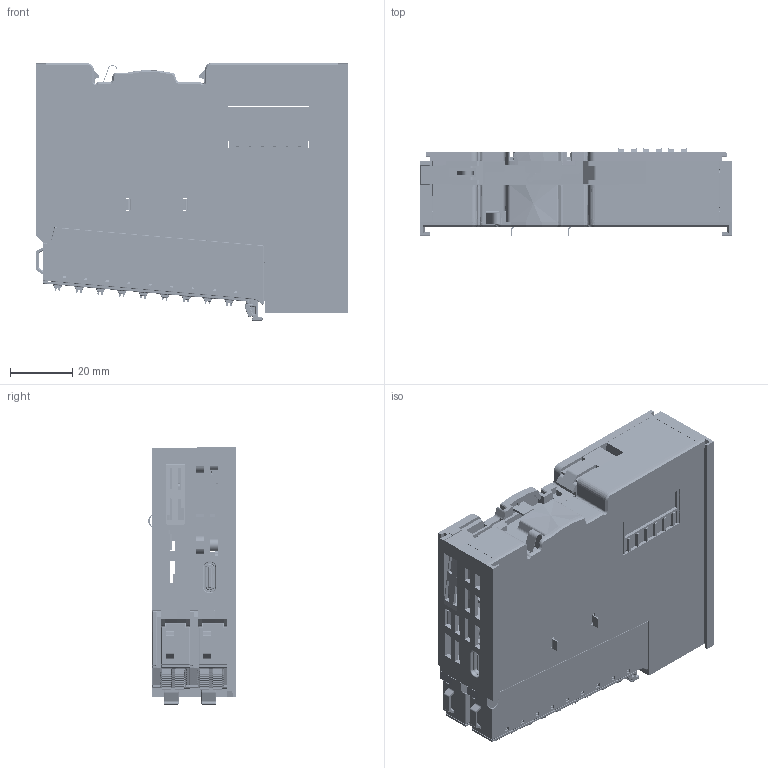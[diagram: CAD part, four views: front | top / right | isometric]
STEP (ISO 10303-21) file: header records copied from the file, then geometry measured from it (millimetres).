
FILE_DESCRIPTION((''),'2;1');
FILE_NAME('00-IO32_ASM','2024-09-29T',('zhong'),(''),'CREO PARAMETRIC BY PTC INC, 2016050','CREO PARAMETRIC BY PTC INC, 2016050','');
FILE_SCHEMA(('CONFIG_CONTROL_DESIGN'));
Products named in the file (19): IO32-BACK-CASE; IO16-FRONT-CASE; IO32-HOLDER-CASE; IO-LIGHT; IO-SEAT-LIGHT; IO-LIGHT-PIPE; IO-LIGHT_ASM; PULLING-BUCKLE; 00-IO32-MD_ASM; DF700-300-5-C-18P-13-00Z_H_-C11; DF700-RM_; PCB-2; PCB-3; 32; DF750_200_32-JP; SHELL; DGKYDTYPEC16A5A1Y3W1SI125; PCB-3_ASM; 00-IO32_ASM
Assembly tree (24 placements, depth 4):
  00-IO32_ASM
    00-IO32-MD_ASM
      IO32-BACK-CASE
      IO16-FRONT-CASE
      IO32-HOLDER-CASE
      IO-LIGHT  x2
      IO-LIGHT_ASM  x2
        IO-SEAT-LIGHT
        IO-LIGHT-PIPE
      PULLING-BUCKLE
    DF700-300-5-C-18P-13-00Z_H_-C11  x2
    DF700-RM_  x2
    PCB-3_ASM
      PCB-2
      PCB-3
      32
      DF750_200_32-JP  x2
      SHELL
      DGKYDTYPEC16A5A1Y3W1SI125
Bounding box: 100.02 x 28.01 x 82.49 mm (x, y, z)
Volume: 84417.3 mm3; surface area: 128835.4 mm2
Topology: 23 solids, 72 shells, 14426 faces, 39995 edges, 25212 vertices
Faces by surface type: plane 8884, cylinder 3944, sphere 652, bspline 462, cone 234, torus 190, extrusion 60
Entity records: 394249 total; most frequent: CARTESIAN_POINT 79031, ORIENTED_EDGE 53980, DIRECTION 49386, EDGE_CURVE 26990, VECTOR 20290, LINE 20236, VERTEX_POINT 17283, PRESENTATION_STYLE_ASSIGNMENT 14746
